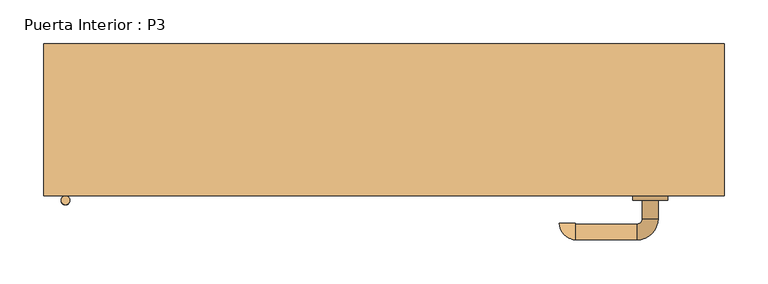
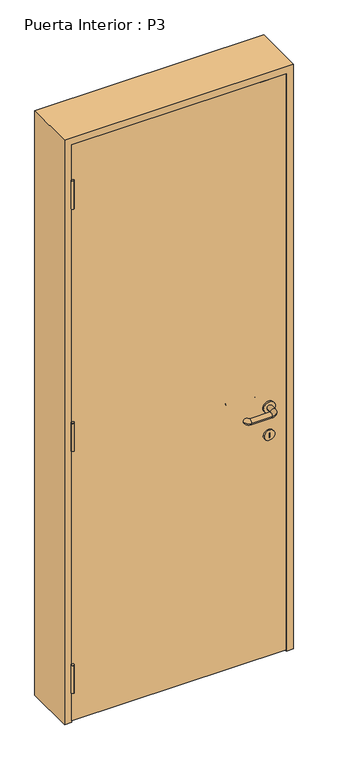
"""IFC4 building model written with IfcOpenShell, lengths in millimetres: door geometry, Puerta Interior : P3."""

from ifc_helpers import new_model, si_unit, point, frame, frame_2d, origin, place, context, project, spatial, polyline, circle_curve, ellipse_curve, trimmed, segment, composite_curve, outline, extrude, faceted_brep, source, transform, mapped, element, save
from ifc_brep_helpers import plane_surface, cylinder_surface, revolved_surface, advanced_brep


def puerta_interior_p3_2876d2fa(model_context):
    return source(origin(), model_context, "Body", "SolidModel", [
        extrude(outline(composite_curve([segment(trimmed(circle_curve(frame_2d((900.0, 305.0)), 20.0), [point((900.0, 325.0))], [point((900.0, 285.0))], False, "CARTESIAN"), True, "CONTINUOUS"), segment(trimmed(circle_curve(frame_2d((900.0, 305.0)), 20.0), [point((900.0, 285.0))], [point((900.0, 325.0))], False, "CARTESIAN"), True, "CONTINUOUS")], self_intersect=False)), frame((0.0, -47.25, 0.0), z_axis=(0.0, 1.0, 0.0), x_axis=(0.0, 0.0, 1.0)), (0.0, 0.0, 1.0), 5.0),
        advanced_brep(
        [(296.0, -42.25, 900.0), (314.0, -42.25, 900.0), (314.0, -21.25, 900.0), (296.0, -21.25, 900.0), (290.0, 2.75, 900.0), (290.0, -15.25, 900.0), (219.797959, 2.75, 900.0), (219.797959, -15.25, 900.0), (218.797959, -16.25, 900.0), (200.797959, -16.25, 900.0)],
        [
            (0, 1, circle_curve(frame((305.0, -42.25, 900.0), z_axis=(0.0, -1.0, 0.0), x_axis=(1.0, 0.0, 0.0)), 9.0)),
            (1, 0, circle_curve(frame((305.0, -42.25, 900.0), z_axis=(0.0, -1.0, 0.0), x_axis=(1.0, 0.0, 0.0)), 9.0)),
            (1, 2),
            (2, 3, circle_curve(frame((305.0, -21.25, 900.0), z_axis=(0.0, -1.0, 0.0), x_axis=(1.0, 0.0, 0.0)), 9.0)),
            (3, 0),
            (3, 2, circle_curve(frame((305.0, -21.25, 900.0), z_axis=(0.0, -1.0, 0.0), x_axis=(1.0, 0.0, 0.0)), 9.0)),
            (4, 5, circle_curve(frame((290.0, -6.25, 900.0), z_axis=(1.0, 0.0, 0.0), x_axis=(0.0, 1.0, 0.0)), 9.0)),
            (5, 3, circle_curve(frame((290.0, -21.25, 900.0), z_axis=(0.0, 0.0, -1.0), x_axis=(1.0, 0.0, 0.0)), 6.0)),
            (2, 4, circle_curve(frame((290.0, -21.25, 900.0), z_axis=(0.0, 0.0, 1.0), x_axis=(1.0, 0.0, 0.0)), 24.0)),
            (5, 4, circle_curve(frame((290.0, -6.25, 900.0), z_axis=(1.0, 0.0, 0.0), x_axis=(0.0, 1.0, 0.0)), 9.0)),
            (4, 6),
            (6, 7, circle_curve(frame((219.797959, -6.25, 900.0), z_axis=(1.0, 0.0, 0.0), x_axis=(0.0, 1.0, 0.0)), 9.0)),
            (7, 5),
            (7, 6, circle_curve(frame((219.797959, -6.25, 900.0), z_axis=(1.0, 0.0, 0.0), x_axis=(0.0, 1.0, 0.0)), 9.0)),
            (8, 9, circle_curve(frame((209.797959, -16.25, 900.0), z_axis=(0.0, -1.0, 0.0), x_axis=(-1.0, 0.0, 0.0)), 9.0)),
            (9, 8, circle_curve(frame((209.797959, -16.25, 900.0), z_axis=(0.0, -1.0, 0.0), x_axis=(-1.0, 0.0, 0.0)), 9.0)),
            (8, 7, circle_curve(frame((219.797959, -16.25, 900.0), z_axis=(0.0, 0.0, -1.0), x_axis=(0.0, 1.0, 0.0)), 1.0)),
            (6, 9, circle_curve(frame((219.797959, -16.25, 900.0), z_axis=(0.0, 0.0, 1.0), x_axis=(0.0, 1.0, 0.0)), 19.0)),
        ],
        [
            plane_surface(frame((305.0, -42.25, 900.0), z_axis=(0.0, -1.0, 0.0), x_axis=(0.0, 0.0, 1.0))),
            cylinder_surface(frame((305.0, -42.25, 900.0), z_axis=(0.0, -1.0, 0.0), x_axis=(1.0, 0.0, 0.0)), 9.0),
            revolved_surface(trimmed(ellipse_curve(frame((305.0, -21.25, 900.0), z_axis=(0.0, 1.0, 0.0), x_axis=(1.0, 0.0, 0.0)), 9.0, 9.0), [point((296.0, -21.25, 900.0))], [point((314.0, -21.25, 900.0))], True, "CARTESIAN"), (290.0, -21.25, 900.0), (0.0, 0.0, -1.0)),
            revolved_surface(trimmed(ellipse_curve(frame((305.0, -21.25, 900.0), z_axis=(0.0, 1.0, 0.0), x_axis=(1.0, 0.0, 0.0)), 9.0, 9.0), [point((314.0, -21.25, 900.0))], [point((296.0, -21.25, 900.0))], True, "CARTESIAN"), (290.0, -21.25, 900.0), (0.0, 0.0, -1.0)),
            cylinder_surface(frame((290.0, -6.25, 900.0), z_axis=(1.0, 0.0, 0.0), x_axis=(0.0, 1.0, 0.0)), 9.0),
            plane_surface(frame((209.797959, -16.25, 900.0), z_axis=(0.0, -1.0, 0.0), x_axis=(0.0, 0.0, 1.0))),
            revolved_surface(trimmed(ellipse_curve(frame((219.797959, -6.25, 900.0), z_axis=(-1.0, 0.0, 0.0), x_axis=(0.0, 1.0, 0.0)), 9.0, 9.0), [point((219.797959, -15.25, 900.0))], [point((219.797959, 2.75, 900.0))], True, "CARTESIAN"), (219.797959, -16.25, 900.0), (0.0, 0.0, -1.0)),
            revolved_surface(trimmed(ellipse_curve(frame((219.797959, -6.25, 900.0), z_axis=(-1.0, 0.0, 0.0), x_axis=(0.0, 1.0, 0.0)), 9.0, 9.0), [point((219.797959, 2.75, 900.0))], [point((219.797959, -15.25, 900.0))], True, "CARTESIAN"), (219.797959, -16.25, 900.0), (0.0, 0.0, -1.0)),
        ],
        [
            (0, [[1, 2]]),
            (1, [[3, 4, 5, -2]]),
            (1, [[-5, 6, -3, -1]]),
            (2, [[7, 8, -4, 9]]),
            (3, [[10, -9, -6, -8]]),
            (4, [[11, 12, 13, -7]]),
            (4, [[-13, 14, -11, -10]]),
            (5, [[15, 16]]),
            (6, [[-15, 17, -12, 18]]),
            (7, [[-16, -18, -14, -17]]),
        ],
    ),
        extrude(outline(composite_curve([segment(trimmed(circle_curve(frame_2d((900.0, 305.0)), 20.0), [point((900.0, 325.0))], [point((900.0, 285.0))], False, "CARTESIAN"), True, "CONTINUOUS"), segment(trimmed(circle_curve(frame_2d((900.0, 305.0)), 20.0), [point((900.0, 285.0))], [point((900.0, 325.0))], False, "CARTESIAN"), True, "CONTINUOUS")], self_intersect=False)), frame((0.0, -92.25, 0.0), z_axis=(0.0, 1.0, 0.0), x_axis=(0.0, 0.0, 1.0)), (0.0, 0.0, 1.0), 5.0),
        advanced_brep(
        [(296.0, -92.25, 900.0), (314.0, -92.25, 900.0), (296.0, -113.25, 900.0), (314.0, -113.25, 900.0), (290.0, -137.25, 900.0), (290.0, -119.25, 900.0), (219.797959, -119.25, 900.0), (219.797959, -137.25, 900.0), (218.797959, -118.25, 900.0), (200.797959, -118.25, 900.0)],
        [
            (0, 1, circle_curve(frame((305.0, -92.25, 900.0), z_axis=(0.0, 1.0, 0.0), x_axis=(1.0, 0.0, 0.0)), 9.0)),
            (1, 0, circle_curve(frame((305.0, -92.25, 900.0), z_axis=(0.0, 1.0, 0.0), x_axis=(1.0, 0.0, 0.0)), 9.0)),
            (0, 2),
            (2, 3, circle_curve(frame((305.0, -113.25, 900.0), z_axis=(0.0, 1.0, 0.0), x_axis=(1.0, 0.0, 0.0)), 9.0)),
            (3, 1),
            (3, 2, circle_curve(frame((305.0, -113.25, 900.0), z_axis=(0.0, 1.0, 0.0), x_axis=(1.0, 0.0, 0.0)), 9.0)),
            (4, 3, circle_curve(frame((290.0, -113.25, 900.0), z_axis=(0.0, 0.0, 1.0), x_axis=(1.0, 0.0, 0.0)), 24.0)),
            (2, 5, circle_curve(frame((290.0, -113.25, 900.0), z_axis=(0.0, 0.0, -1.0), x_axis=(1.0, 0.0, 0.0)), 6.0)),
            (5, 4, circle_curve(frame((290.0, -128.25, 900.0), z_axis=(1.0, 0.0, 0.0), x_axis=(0.0, -1.0, 0.0)), 9.0)),
            (4, 5, circle_curve(frame((290.0, -128.25, 900.0), z_axis=(1.0, 0.0, 0.0), x_axis=(0.0, -1.0, 0.0)), 9.0)),
            (5, 6),
            (6, 7, circle_curve(frame((219.797959, -128.25, 900.0), z_axis=(1.0, 0.0, 0.0), x_axis=(0.0, -1.0, 0.0)), 9.0)),
            (7, 4),
            (7, 6, circle_curve(frame((219.797959, -128.25, 900.0), z_axis=(1.0, 0.0, 0.0), x_axis=(0.0, -1.0, 0.0)), 9.0)),
            (8, 9, circle_curve(frame((209.797959, -118.25, 900.0), z_axis=(0.0, 1.0, 0.0), x_axis=(-1.0, 0.0, 0.0)), 9.0)),
            (9, 8, circle_curve(frame((209.797959, -118.25, 900.0), z_axis=(0.0, 1.0, 0.0), x_axis=(-1.0, 0.0, 0.0)), 9.0)),
            (9, 7, circle_curve(frame((219.797959, -118.25, 900.0), z_axis=(0.0, 0.0, 1.0), x_axis=(0.0, -1.0, 0.0)), 19.0)),
            (6, 8, circle_curve(frame((219.797959, -118.25, 900.0), z_axis=(0.0, 0.0, -1.0), x_axis=(0.0, -1.0, 0.0)), 1.0)),
        ],
        [
            plane_surface(frame((305.0, -92.25, 900.0), z_axis=(0.0, 1.0, 0.0), x_axis=(0.0, 0.0, 1.0))),
            cylinder_surface(frame((305.0, -92.25, 900.0), z_axis=(0.0, 1.0, 0.0), x_axis=(1.0, 0.0, 0.0)), 9.0),
            revolved_surface(trimmed(ellipse_curve(frame((305.0, -113.25, 900.0), z_axis=(0.0, 1.0, 0.0), x_axis=(1.0, 0.0, 0.0)), 9.0, 9.0), [point((296.0, -113.25, 900.0))], [point((314.0, -113.25, 900.0))], True, "CARTESIAN"), (290.0, -113.25, 900.0), (0.0, 0.0, -1.0)),
            revolved_surface(trimmed(ellipse_curve(frame((305.0, -113.25, 900.0), z_axis=(0.0, 1.0, 0.0), x_axis=(1.0, 0.0, 0.0)), 9.0, 9.0), [point((314.0, -113.25, 900.0))], [point((296.0, -113.25, 900.0))], True, "CARTESIAN"), (290.0, -113.25, 900.0), (0.0, 0.0, -1.0)),
            cylinder_surface(frame((290.0, -128.25, 900.0), z_axis=(1.0, 0.0, 0.0), x_axis=(0.0, -1.0, 0.0)), 9.0),
            plane_surface(frame((209.797959, -118.25, 900.0), z_axis=(0.0, 1.0, 0.0), x_axis=(0.0, 0.0, 1.0))),
            revolved_surface(trimmed(ellipse_curve(frame((219.797959, -128.25, 900.0), z_axis=(1.0, 0.0, 0.0), x_axis=(0.0, -1.0, 0.0)), 9.0, 9.0), [point((219.797959, -119.25, 900.0))], [point((219.797959, -137.25, 900.0))], True, "CARTESIAN"), (219.797959, -118.25, 900.0), (0.0, 0.0, -1.0)),
            revolved_surface(trimmed(ellipse_curve(frame((219.797959, -128.25, 900.0), z_axis=(1.0, 0.0, 0.0), x_axis=(0.0, -1.0, 0.0)), 9.0, 9.0), [point((219.797959, -137.25, 900.0))], [point((219.797959, -119.25, 900.0))], True, "CARTESIAN"), (219.797959, -118.25, 900.0), (0.0, 0.0, -1.0)),
        ],
        [
            (0, [[1, 2]]),
            (1, [[-1, 3, 4, 5]]),
            (1, [[-2, -5, 6, -3]]),
            (2, [[7, -4, 8, 9]]),
            (3, [[-8, -6, -7, 10]]),
            (4, [[-9, 11, 12, 13]]),
            (4, [[-10, -13, 14, -11]]),
            (5, [[15, 16]]),
            (6, [[17, -12, 18, -16]]),
            (7, [[-18, -14, -17, -15]]),
        ],
    ),
        extrude(outline(composite_curve([segment(trimmed(circle_curve(frame_2d((800.0, 305.0)), 18.0), [point((800.0, 323.0))], [point((800.0, 287.0))], False, "CARTESIAN"), True, "CONTINUOUS"), segment(trimmed(circle_curve(frame_2d((800.0, 305.0)), 18.0), [point((800.0, 287.0))], [point((800.0, 323.0))], False, "CARTESIAN"), True, "CONTINUOUS")], self_intersect=False), holes=[polyline([(791.5189471, 305.9764977), (791.5189471, 304.0063037), (807.7059713, 304.0063037), (807.7059713, 305.9764977), (791.5189471, 305.9764977)])]), frame((0.0, -92.25, 0.0), z_axis=(0.0, 1.0, 0.0), x_axis=(0.0, 0.0, 1.0)), (0.0, 0.0, 1.0), 50.0),
        extrude(outline(polyline([(-365.0, -87.25), (-365.0, -47.25), (365.0, -47.25), (365.0, -87.25), (-365.0, -87.25)])), frame((0.0, 0.0, 5.0), z_axis=(0.0, 0.0, 1.0), x_axis=(1.0, 0.0, 0.0)), (0.0, 0.0, 1.0), 2070.0),
        faceted_brep([(365.0, -47.25, 0.0), (350.0, -47.25, 0.0), (350.0, -27.25, 0.0), (365.0, -27.25, 0.0), (365.0, 87.25, 0.0), (390.0, 87.25, 0.0), (390.0, -87.25, 0.0), (365.0, -87.25, 0.0), (365.0, -87.25, 2075.0), (365.0, -47.25, 2075.0), (390.0, -87.25, 2100.0), (-390.0, -87.25, 2100.0), (-390.0, -87.25, 0.0), (-365.0, -87.25, 0.0), (-365.0, -87.25, 2075.0), (390.0, 87.25, 2100.0), (365.0, 87.25, 2075.0), (-365.0, 87.25, 2075.0), (-365.0, 87.25, 0.0), (-390.0, 87.25, 0.0), (-390.0, 87.25, 2100.0), (365.0, -27.25, 2075.0), (350.0, -27.25, 2060.0), (-350.0, -27.25, 2060.0), (-350.0, -27.25, 0.0), (-365.0, -27.25, 0.0), (-365.0, -27.25, 2075.0), (350.0, -47.25, 2060.0), (-365.0, -47.25, 2075.0), (-365.0, -47.25, 0.0), (-350.0, -47.25, 0.0), (-350.0, -47.25, 2060.0)], [[[0, 1, 2, 3, 4, 5, 6, 7]], [[7, 8, 9, 0]], [[6, 10, 11, 12, 13, 14, 8, 7]], [[5, 15, 10, 6]], [[4, 16, 17, 18, 19, 20, 15, 5]], [[3, 21, 16, 4]], [[2, 22, 23, 24, 25, 26, 21, 3]], [[1, 27, 22, 2]], [[0, 9, 28, 29, 30, 31, 27, 1]], [[14, 13, 29, 28]], [[29, 13, 12, 19, 18, 25, 24, 30]], [[20, 19, 12, 11]], [[26, 25, 18, 17]], [[31, 30, 24, 23]], [[8, 14, 28, 9]], [[15, 20, 11, 10]], [[21, 26, 17, 16]], [[27, 31, 23, 22]]]),
        extrude(outline(composite_curve([segment(trimmed(circle_curve(frame_2d((-365.0, -92.25)), 5.0), [point((-365.0, -87.25))], [point((-365.0, -97.25))], False, "CARTESIAN"), True, "CONTINUOUS"), segment(trimmed(circle_curve(frame_2d((-365.0, -92.25)), 5.0), [point((-365.0, -97.25))], [point((-365.0, -87.25))], False, "CARTESIAN"), True, "CONTINUOUS")], self_intersect=False)), frame((0.0, 0.0, 1850.0), z_axis=(0.0, 0.0, 1.0), x_axis=(1.0, 0.0, 0.0)), (0.0, 0.0, 1.0), 100.0),
        extrude(outline(composite_curve([segment(trimmed(circle_curve(frame_2d((-365.0, -92.25)), 5.0), [point((-370.0, -92.25))], [point((-360.0, -92.25))], False, "CARTESIAN"), True, "CONTINUOUS"), segment(trimmed(circle_curve(frame_2d((-365.0, -92.25)), 5.0), [point((-360.0, -92.25))], [point((-370.0, -92.25))], False, "CARTESIAN"), True, "CONTINUOUS")], self_intersect=False)), frame((0.0, 0.0, 980.0), z_axis=(0.0, 0.0, 1.0), x_axis=(1.0, 0.0, 0.0)), (0.0, 0.0, 1.0), 100.0),
        extrude(outline(composite_curve([segment(trimmed(circle_curve(frame_2d((-365.0, -92.25)), 5.0), [point((-365.0, -87.25))], [point((-365.0, -97.25))], False, "CARTESIAN"), True, "CONTINUOUS"), segment(trimmed(circle_curve(frame_2d((-365.0, -92.25)), 5.0), [point((-365.0, -97.25))], [point((-365.0, -87.25))], False, "CARTESIAN"), True, "CONTINUOUS")], self_intersect=False)), frame((0.0, 0.0, 110.0), z_axis=(0.0, 0.0, 1.0), x_axis=(1.0, 0.0, 0.0)), (0.0, 0.0, 1.0), 100.0),
    ])


if __name__ == "__main__":
    model = new_model("IFC4")
    model_context = context("Model", 3, world=origin())
    ifc_project = project(units=[si_unit("LENGTHUNIT", "METRE", prefix="MILLI")], contexts=[model_context])
    site = spatial("IfcSite", under=ifc_project)
    building = spatial("IfcBuilding", under=site)
    placement = place(None, origin())
    puerta_interior_p3_shape = puerta_interior_p3_2876d2fa(model_context)
    element("IfcDoor", 1, ObjectType="Puerta Interior : P3", at=placement, inside=building, context=model_context, shape_type="MappedRepresentation", body=[
        mapped(puerta_interior_p3_shape, transform((0.0, 0.0, 0.0), x_axis=(1.0, 0.0, 0.0), y_axis=(0.0, 1.0, 0.0), z_axis=(0.0, 0.0, 1.0))),
    ])
    save(model, "model.ifc")
